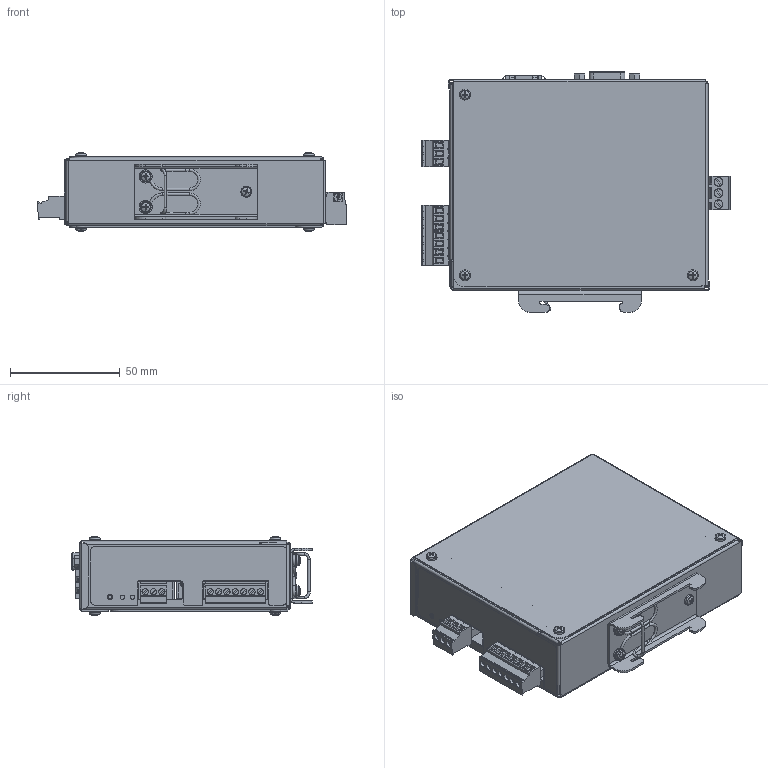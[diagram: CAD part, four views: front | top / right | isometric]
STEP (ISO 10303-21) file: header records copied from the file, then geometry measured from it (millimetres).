
FILE_DESCRIPTION(/* description */ (''),/* implementation_level */ '2;1');
FILE_NAME(/* name */ 'C:\Users\alves\OneDrive - ALFA INSTRUMENTOS ELETRONICOS LTDA\Área de Trabalho\ALVES\MARKETING\0651CX - TRANSMISSOR DE PESAGEM MOD. 2711-P.stp',/* time_stamp */ '2023-10-18T11:52:16-03:00',/* author */ ('alves'),/* organization */ (''),/* preprocessor_version */ 'ST-DEVELOPER v18.1',/* originating_system */ 'Autodesk Inventor 2022',/* authorisation */ '');
FILE_SCHEMA (('AUTOMOTIVE_DESIGN { 1 0 10303 214 3 1 1 }'));
Products named in the file (1): 0651CX - TRANSMISSOR DE PESAGEM MOD. 2711-P
Bounding box: 141.01 x 109.72 x 36.16 mm (x, y, z)
Volume: 12779.6 mm3; surface area: 92046.7 mm2
Topology: 10 solids, 805 shells, 3884 faces, 11912 edges, 9053 vertices
Faces by surface type: plane 2443, cylinder 759, bspline 361, cone 136, torus 110, sphere 75
Full cylindrical faces by diameter (mm): 0.434 x1, 0.457 x2, 0.6 x6, 0.609 x1, 0.8 x4, 1 x9, 1.2 x3, 1.4 x5, 1.5 x1, 1.6 x8, 2 x2, 2.156 x2, 2.256 x10, 2.5 x17, 2.7 x2, 2.8 x10, 2.845 x2, 2.9 x10, 3 x9, 3.013 x3, 3.2 x10, 3.783 x3, 4 x3, 6 x2
Entity records: 147865 total; most frequent: CARTESIAN_POINT 37892, DIRECTION 21486, ORIENTED_EDGE 19788, EDGE_CURVE 11878, VERTEX_POINT 9065, LINE 8120, VECTOR 8120, AXIS2_PLACEMENT_3D 6683
